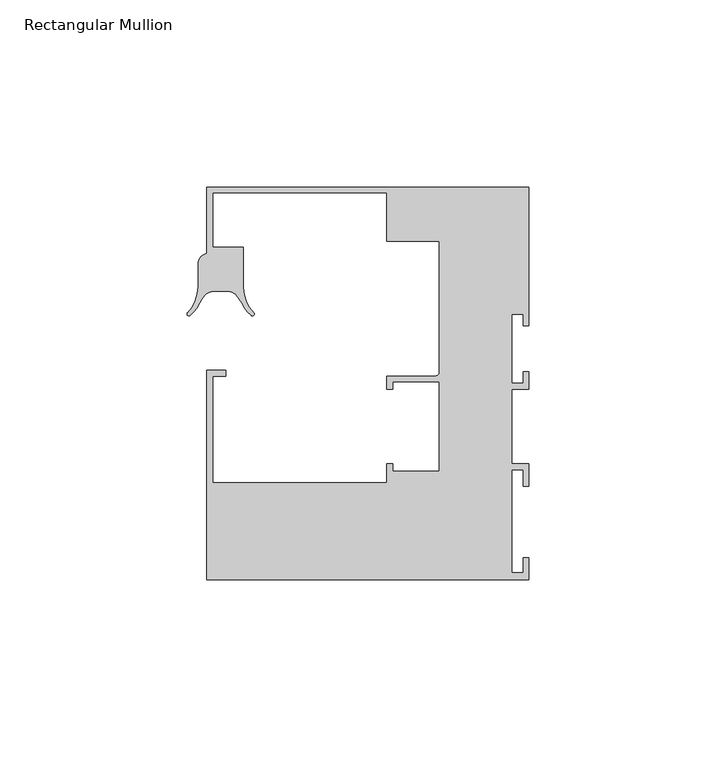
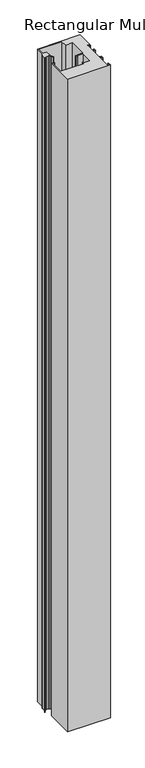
"""IFC4 building model written with IfcOpenShell, lengths in millimetres: member geometry, Rectangular Mullion : Danpal_Airpt_End-Mullion_B2."""

from ifc_helpers import new_model, si_unit, point, frame, frame_2d, origin, place, context, project, spatial, polyline, circle_curve, trimmed, segment, composite_curve, outline, extrude, source, transform, mapped, element, save


def rectangular_mullion_d4e17fa0(model_context):
    return source(origin(), model_context, "Body", "SweptSolid", [
        extrude(outline(composite_curve([segment(polyline([(-28.3319078, -44.249979), (18.1680922, -44.249979), (18.1680922, -39.2500001), (19.7680922, -39.2500001), (19.7680922, -41.2500001), (32.2500023, -41.2500001), (32.2500023, -17.2500031), (19.7500023, -17.2500031), (19.7500023, -19.2500031), (18.1500023, -19.2500031), (18.1500023, -15.7500031), (31.1983762, -15.7500031)]), True, "CONTINUOUS"), segment(trimmed(circle_curve(frame_2d((31.1983762, -14.698377)), 1.0516261), [point((31.1983762, -15.7500031))], [point((32.2500023, -14.698377))], True, "CARTESIAN"), True, "CONTINUOUS"), segment(polyline([(32.2500023, -14.698377), (32.2500023, 20.2499969), (18.1500023, 20.2499969), (18.1500023, 33.2499969), (-28.3500023, 33.2499969), (-28.3500023, 18.6499969), (-20.1500023, 18.6499969), (-20.1500023, 7.8643287)]), True, "CONTINUOUS"), segment(trimmed(circle_curve(frame_2d((-10.1541518, 8.1523787)), 10.0), [point((-20.1500023, 7.8643287))], [point((-17.3439806, 1.2021009))], True, "CARTESIAN"), True, "CONTINUOUS"), segment(trimmed(circle_curve(frame_2d((-17.7037094, 0.8543575)), 0.5003301), [point((-17.3439806, 1.2021009))], [point((-18.026354, 0.4719563))], False, "CARTESIAN"), True, "CONTINUOUS"), segment(trimmed(circle_curve(frame_2d((-11.5777192, 8.1149337)), 9.9999997), [point((-18.026354, 0.4719563))], [point((-20.5918518, 3.7853369))], False, "CARTESIAN"), True, "CONTINUOUS"), segment(trimmed(circle_curve(frame_2d((-29.6059846, -0.5442599)), 10.0), [point((-20.5918518, 3.7853369))], [point((-21.8217605, 5.7331484))], True, "CARTESIAN"), True, "CONTINUOUS"), segment(trimmed(circle_curve(frame_2d((-24.1570278, 3.8499259)), 3.0), [point((-21.8217605, 5.7331484))], [point((-24.1570278, 6.8499259))], True, "CARTESIAN"), True, "CONTINUOUS"), segment(polyline([(-24.1570278, 6.8499259), (-28.1956718, 6.8499259)]), True, "CONTINUOUS"), segment(trimmed(circle_curve(frame_2d((-28.1956718, 3.8499259)), 3.0), [point((-28.1956718, 6.8499259))], [point((-30.5309383, 5.7331494))], True, "CARTESIAN"), True, "CONTINUOUS"), segment(trimmed(circle_curve(frame_2d((-22.7467169, -0.544262)), 9.9999997), [point((-30.5309383, 5.7331494))], [point((-31.7608489, 3.785336))], True, "CARTESIAN"), True, "CONTINUOUS"), segment(trimmed(circle_curve(frame_2d((-40.774981, 8.114934)), 9.9999998), [point((-31.7608489, 3.785336))], [point((-34.3289194, 0.4697862))], False, "CARTESIAN"), True, "CONTINUOUS"), segment(trimmed(circle_curve(frame_2d((-34.6513305, 0.8521716)), 0.5001675), [point((-34.3289194, 0.4697862))], [point((-35.0108364, 1.1999114))], False, "CARTESIAN"), True, "CONTINUOUS"), segment(trimmed(circle_curve(frame_2d((-42.198548, 8.1523787)), 10.0), [point((-35.0108364, 1.1999114))], [point((-32.1986067, 8.1181379))], True, "CARTESIAN"), True, "CONTINUOUS"), segment(polyline([(-32.1986067, 8.1181379), (-32.1986067, 14.1183419)]), True, "CONTINUOUS"), segment(trimmed(circle_curve(frame_2d((-29.1986238, 14.1081309)), 3.0000002), [point((-32.1986067, 14.1183419))], [point((-29.8499992, 17.0365625))], False, "CARTESIAN"), True, "CONTINUOUS"), segment(polyline([(-29.8499992, 17.0365625), (-29.8499992, 34.75), (56.15, 34.75), (56.15, -2.25), (54.65, -2.25), (54.65, 0.75), (51.65, 0.75), (51.65, -17.65), (54.65, -17.65), (54.65, -14.65), (56.15, -14.65), (56.15, -19.25), (51.6680922, -19.25), (51.6680922, -39.2500001), (56.1499985, -39.2500001), (56.1499985, -45.2500001), (54.6499985, -45.2500001), (54.6499985, -40.7500001), (51.6680922, -40.7500001), (51.6680922, -68.2500001), (54.6680922, -68.2500001), (54.6680922, -64.2500001), (56.1680922, -64.2500001), (56.1680922, -70.2500001), (-29.8319078, -70.2500001), (-29.8319078, -14.2500001), (-24.8319078, -14.2500001), (-24.8319078, -15.7500001), (-28.3319078, -15.7500001), (-28.3319078, -44.249979)]), True, "CONTINUOUS")], self_intersect=False)), frame((0.0, 0.0, -1387.6638156), z_axis=(0.0, 0.0, 1.0), x_axis=(1.0, 0.0, 0.0)), (0.0, 0.0, 1.0), 1387.6638156),
    ])


if __name__ == "__main__":
    model = new_model("IFC4")
    model_context = context("Model", 3, world=origin())
    ifc_project = project(units=[si_unit("LENGTHUNIT", "METRE", prefix="MILLI")], contexts=[model_context])
    site = spatial("IfcSite", under=ifc_project)
    building = spatial("IfcBuilding", under=site)
    placement = place(None, origin())
    rectangular_mullion_shape = rectangular_mullion_d4e17fa0(model_context)
    element("IfcMember", 1, ObjectType="Rectangular Mullion : Danpal_Airpt_End-Mullion_B2", at=placement, inside=building, context=model_context, shape_type="MappedRepresentation", body=[
        mapped(rectangular_mullion_shape, transform((0.0, 0.0, 0.0), x_axis=(1.0, 0.0, 0.0), y_axis=(0.0, 1.0, 0.0), z_axis=(0.0, 0.0, 1.0))),
    ])
    save(model, "model.ifc")
